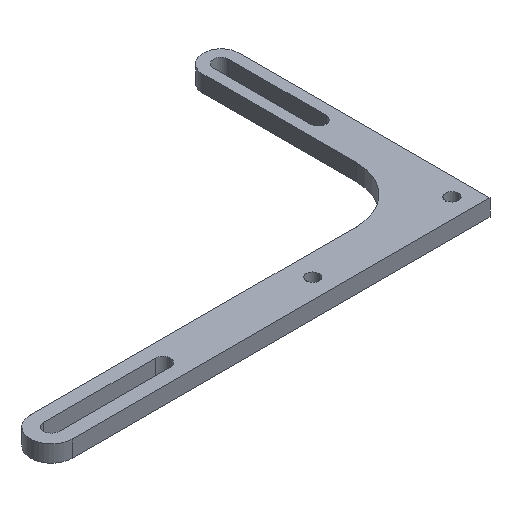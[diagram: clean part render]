
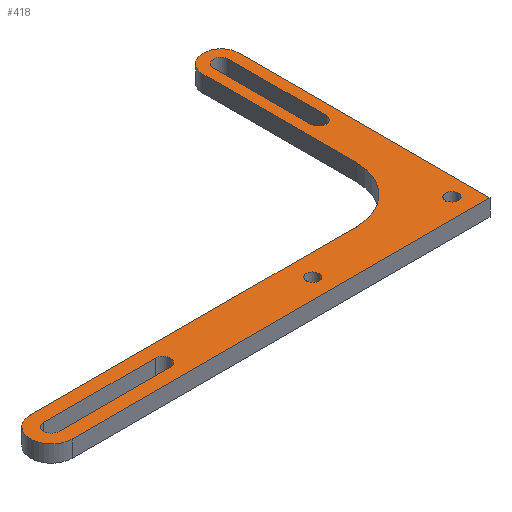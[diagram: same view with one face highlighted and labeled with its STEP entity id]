
A CAD part, isometric view. The second image highlights one B-rep face of the part: STEP entity #418.
In plain terms, the highlighted planar face has unit normal (0, 0, 1).
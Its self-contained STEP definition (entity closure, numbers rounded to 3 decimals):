
#19=FACE_BOUND('',#78,.T.);
#20=FACE_BOUND('',#79,.T.);
#21=FACE_BOUND('',#80,.T.);
#22=FACE_BOUND('',#81,.T.);
#35=PLANE('',#476);
#56=FACE_OUTER_BOUND('',#77,.T.);
#77=EDGE_LOOP('',(#350,#351,#352,#353,#354,#355,#356));
#78=EDGE_LOOP('',(#357,#358,#359,#360));
#79=EDGE_LOOP('',(#361,#362));
#80=EDGE_LOOP('',(#363,#364));
#81=EDGE_LOOP('',(#365,#366,#367,#368));
#89=LINE('',#619,#124);
#94=LINE('',#634,#129);
#98=LINE('',#645,#133);
#104=LINE('',#674,#139);
#109=LINE('',#688,#144);
#115=LINE('',#706,#150);
#117=LINE('',#715,#152);
#120=LINE('',#720,#155);
#124=VECTOR('',#493,10.);
#129=VECTOR('',#506,10.);
#133=VECTOR('',#518,10.);
#139=VECTOR('',#550,10.);
#144=VECTOR('',#563,10.);
#150=VECTOR('',#583,10.);
#152=VECTOR('',#593,10.);
#155=VECTOR('',#598,10.);
#157=CIRCLE('',#436,20.);
#159=CIRCLE('',#440,2.75);
#161=CIRCLE('',#444,2.75);
#163=CIRCLE('',#448,2.25);
#165=CIRCLE('',#451,2.25);
#167=CIRCLE('',#454,2.25);
#169=CIRCLE('',#457,2.25);
#171=CIRCLE('',#461,2.75);
#173=CIRCLE('',#465,2.75);
#175=CIRCLE('',#468,6.534);
#177=CIRCLE('',#472,7.5);
#179=VERTEX_POINT('',#609);
#180=VERTEX_POINT('',#610);
#183=VERTEX_POINT('',#618);
#185=VERTEX_POINT('',#624);
#186=VERTEX_POINT('',#625);
#189=VERTEX_POINT('',#633);
#191=VERTEX_POINT('',#639);
#193=VERTEX_POINT('',#648);
#194=VERTEX_POINT('',#649);
#197=VERTEX_POINT('',#660);
#198=VERTEX_POINT('',#661);
#201=VERTEX_POINT('',#672);
#202=VERTEX_POINT('',#673);
#205=VERTEX_POINT('',#681);
#207=VERTEX_POINT('',#687);
#209=VERTEX_POINT('',#696);
#212=VERTEX_POINT('',#704);
#213=VERTEX_POINT('',#708);
#215=VERTEX_POINT('',#714);
#217=EDGE_CURVE('',#179,#180,#157,.T.);
#221=EDGE_CURVE('',#183,#180,#89,.T.);
#224=EDGE_CURVE('',#185,#186,#159,.T.);
#228=EDGE_CURVE('',#186,#189,#94,.T.);
#231=EDGE_CURVE('',#189,#191,#161,.T.);
#234=EDGE_CURVE('',#191,#185,#98,.T.);
#236=EDGE_CURVE('',#193,#194,#163,.T.);
#240=EDGE_CURVE('',#193,#194,#165,.T.);
#242=EDGE_CURVE('',#197,#198,#167,.T.);
#246=EDGE_CURVE('',#197,#198,#169,.T.);
#248=EDGE_CURVE('',#201,#202,#104,.T.);
#252=EDGE_CURVE('',#201,#205,#171,.T.);
#255=EDGE_CURVE('',#207,#205,#109,.T.);
#258=EDGE_CURVE('',#207,#202,#173,.T.);
#260=EDGE_CURVE('',#183,#209,#175,.T.);
#265=EDGE_CURVE('',#179,#212,#115,.T.);
#266=EDGE_CURVE('',#213,#212,#177,.T.);
#269=EDGE_CURVE('',#215,#213,#117,.T.);
#272=EDGE_CURVE('',#215,#209,#120,.T.);
#350=ORIENTED_EDGE('',*,*,#272,.T.);
#351=ORIENTED_EDGE('',*,*,#260,.F.);
#352=ORIENTED_EDGE('',*,*,#221,.T.);
#353=ORIENTED_EDGE('',*,*,#217,.F.);
#354=ORIENTED_EDGE('',*,*,#265,.T.);
#355=ORIENTED_EDGE('',*,*,#266,.F.);
#356=ORIENTED_EDGE('',*,*,#269,.F.);
#357=ORIENTED_EDGE('',*,*,#258,.T.);
#358=ORIENTED_EDGE('',*,*,#248,.F.);
#359=ORIENTED_EDGE('',*,*,#252,.T.);
#360=ORIENTED_EDGE('',*,*,#255,.F.);
#361=ORIENTED_EDGE('',*,*,#246,.F.);
#362=ORIENTED_EDGE('',*,*,#242,.T.);
#363=ORIENTED_EDGE('',*,*,#240,.F.);
#364=ORIENTED_EDGE('',*,*,#236,.T.);
#365=ORIENTED_EDGE('',*,*,#234,.T.);
#366=ORIENTED_EDGE('',*,*,#224,.T.);
#367=ORIENTED_EDGE('',*,*,#228,.T.);
#368=ORIENTED_EDGE('',*,*,#231,.T.);
#418=ADVANCED_FACE('',(#56,#19,#20,#21,#22),#35,.T.);
#436=AXIS2_PLACEMENT_3D('',#611,#485,#486);
#440=AXIS2_PLACEMENT_3D('',#626,#498,#499);
#444=AXIS2_PLACEMENT_3D('',#640,#511,#512);
#448=AXIS2_PLACEMENT_3D('',#650,#522,#523);
#451=AXIS2_PLACEMENT_3D('',#657,#530,#531);
#454=AXIS2_PLACEMENT_3D('',#662,#536,#537);
#457=AXIS2_PLACEMENT_3D('',#669,#544,#545);
#461=AXIS2_PLACEMENT_3D('',#682,#556,#557);
#465=AXIS2_PLACEMENT_3D('',#693,#568,#569);
#468=AXIS2_PLACEMENT_3D('',#697,#574,#575);
#472=AXIS2_PLACEMENT_3D('',#709,#586,#587);
#476=AXIS2_PLACEMENT_3D('',#722,#600,#601);
#485=DIRECTION('center_axis',(0.,0.,
1.));
#486=DIRECTION('ref_axis',(0.707,-0.707,0.));
#493=DIRECTION('',(0.,-1.,0.));
#498=DIRECTION('center_axis',(0.,0.,
-1.));
#499=DIRECTION('ref_axis',(1.,0.,0.));
#506=DIRECTION('',(0.,-1.,0.));
#511=DIRECTION('center_axis',(0.,0.,
-1.));
#512=DIRECTION('ref_axis',(1.,0.,0.));
#518=DIRECTION('',(0.,1.,0.));
#522=DIRECTION('center_axis',(0.,0.,
-1.));
#523=DIRECTION('ref_axis',(1.,0.,0.));
#530=DIRECTION('center_axis',(0.,0.,
1.));
#531=DIRECTION('ref_axis',(1.,0.,0.));
#536=DIRECTION('center_axis',(0.,0.,
-1.));
#537=DIRECTION('ref_axis',(1.,0.,0.));
#544=DIRECTION('center_axis',(0.,0.,
1.));
#545=DIRECTION('ref_axis',(1.,0.,0.));
#550=DIRECTION('',(-1.,0.,0.));
#556=DIRECTION('center_axis',(0.,0.,
-1.));
#557=DIRECTION('ref_axis',(1.,0.,0.));
#563=DIRECTION('',(1.,0.,0.));
#568=DIRECTION('center_axis',(0.,0.,
-1.));
#569=DIRECTION('ref_axis',(1.,0.,0.));
#574=DIRECTION('center_axis',(0.,0.,
-1.));
#575=DIRECTION('ref_axis',(-1.,0.,0.));
#583=DIRECTION('',(-1.,0.,0.));
#586=DIRECTION('center_axis',(0.,0.,
-1.));
#587=DIRECTION('ref_axis',(0.,-1.,0.));
#593=DIRECTION('',(-1.,0.,0.));
#598=DIRECTION('',(0.,1.,0.));
#600=DIRECTION('center_axis',(0.,0.,
1.));
#601=DIRECTION('ref_axis',(1.,0.,0.));
#609=CARTESIAN_POINT('',(-213.067,235.75,-335.));
#610=CARTESIAN_POINT('',(-193.067,255.75,-335.));
#611=CARTESIAN_POINT('Origin',(-213.067,255.75,-335.));
#618=CARTESIAN_POINT('',(-193.067,310.75,-335.));
#619=CARTESIAN_POINT('',(-193.067,310.75,-335.));
#624=CARTESIAN_POINT('',(-189.284,310.75,-335.));
#625=CARTESIAN_POINT('',(-183.784,310.75,-335.));
#626=CARTESIAN_POINT('Origin',(-186.534,310.75,-335.));
#633=CARTESIAN_POINT('',(-183.784,275.824,-335.));
#634=CARTESIAN_POINT('',(-183.784,310.75,-335.));
#639=CARTESIAN_POINT('',(-189.284,275.824,-335.));
#640=CARTESIAN_POINT('Origin',(-186.534,275.824,-335.));
#645=CARTESIAN_POINT('',(-189.284,275.824,-335.));
#648=CARTESIAN_POINT('',(-238.765,227.875,-335.));
#649=CARTESIAN_POINT('',(-234.266,227.875,-335.));
#650=CARTESIAN_POINT('Origin',(-236.515,227.935,-335.));
#657=CARTESIAN_POINT('Origin',(-236.515,227.815,-335.));
#660=CARTESIAN_POINT('',(-188.765,227.875,-335.));
#661=CARTESIAN_POINT('',(-184.266,227.875,-335.));
#662=CARTESIAN_POINT('Origin',(-186.515,227.935,-335.));
#669=CARTESIAN_POINT('Origin',(-186.515,227.815,-335.));
#672=CARTESIAN_POINT('',(-290.,231.,-335.));
#673=CARTESIAN_POINT('',(-330.,231.,-335.));
#674=CARTESIAN_POINT('',(-290.,231.,-335.));
#681=CARTESIAN_POINT('',(-290.,225.5,-335.));
#682=CARTESIAN_POINT('Origin',(-290.,228.25,-335.));
#687=CARTESIAN_POINT('',(-330.,225.5,-335.));
#688=CARTESIAN_POINT('',(-330.,225.5,-335.));
#693=CARTESIAN_POINT('Origin',(-330.,228.25,-335.));
#696=CARTESIAN_POINT('',(-180.,310.75,-335.));
#697=CARTESIAN_POINT('Origin',(-186.534,310.75,-335.));
#704=CARTESIAN_POINT('',(-330.,235.75,-335.));
#706=CARTESIAN_POINT('',(-193.067,235.75,-335.));
#708=CARTESIAN_POINT('',(-330.,220.75,-335.));
#709=CARTESIAN_POINT('Origin',(-330.,228.25,-335.));
#714=CARTESIAN_POINT('',(-180.,220.75,-335.));
#715=CARTESIAN_POINT('',(-180.,220.75,-335.));
#720=CARTESIAN_POINT('',(-180.,220.75,-335.));
#722=CARTESIAN_POINT('Origin',(-246.858,152.875,-335.));
